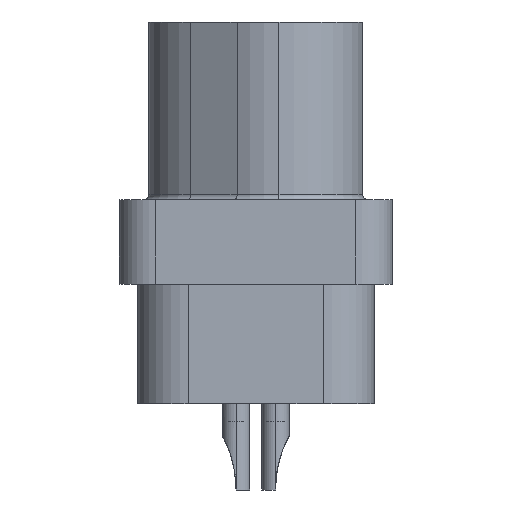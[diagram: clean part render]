
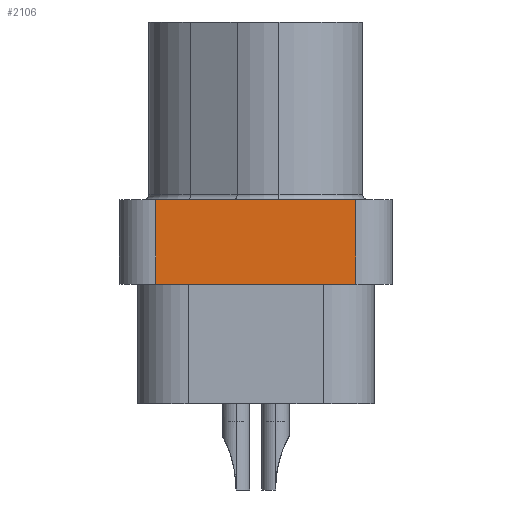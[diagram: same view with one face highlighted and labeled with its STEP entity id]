
A CAD part, left-side view. The second image highlights one B-rep face of the part: STEP entity #2106.
In plain terms, the highlighted planar face has unit normal (-1, 0, 0).
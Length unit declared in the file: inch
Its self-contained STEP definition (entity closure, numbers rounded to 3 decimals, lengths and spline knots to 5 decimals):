
#1488 = DIRECTION ( 'NONE',  ( 0., 0., -1. ) ) ;
#2106 = ADVANCED_FACE ( 'NONE', ( #10650 ), #73346, .T. ) ;
#2491 = EDGE_CURVE ( 'NONE', #49170, #23285, #16704, .T. ) ;
#4342 = VECTOR ( 'NONE', #26112, 39.37008 ) ;
#6988 = CARTESIAN_POINT ( 'NONE',  ( -0.7375, 0.11, 0.04 ) ) ;
#7127 = CARTESIAN_POINT ( 'NONE',  ( -0.7375, 0.11, -0.053 ) ) ;
#7692 = VERTEX_POINT ( 'NONE', #42355 ) ;
#8107 = ORIENTED_EDGE ( 'NONE', *, *, #30776, .T. ) ;
#9423 = ORIENTED_EDGE ( 'NONE', *, *, #14098, .F. ) ;
#10323 = ORIENTED_EDGE ( 'NONE', *, *, #2491, .F. ) ;
#10650 = FACE_OUTER_BOUND ( 'NONE', #19512, .T. ) ;
#12157 = CARTESIAN_POINT ( 'NONE',  ( -0.7375, -0.11, 0.04 ) ) ;
#14098 = EDGE_CURVE ( 'NONE', #7692, #49170, #28289, .T. ) ;
#14217 = VECTOR ( 'NONE', #21973, 39.37008 ) ;
#16704 = LINE ( 'NONE', #33427, #4342 ) ;
#19512 = EDGE_LOOP ( 'NONE', ( #10323, #9423, #8107, #48059 ) ) ;
#21973 = DIRECTION ( 'NONE',  ( 0., 0., -1. ) ) ;
#22567 = CARTESIAN_POINT ( 'NONE',  ( -0.7375, -0.11, 0.04 ) ) ;
#22744 = VERTEX_POINT ( 'NONE', #38707 ) ;
#23285 = VERTEX_POINT ( 'NONE', #7127 ) ;
#26112 = DIRECTION ( 'NONE',  ( 0., 1., 0. ) ) ;
#28289 = LINE ( 'NONE', #51830, #14217 ) ;
#30776 = EDGE_CURVE ( 'NONE', #7692, #22744, #57326, .T. ) ;
#33342 = VECTOR ( 'NONE', #35225, 39.37008 ) ;
#33427 = CARTESIAN_POINT ( 'NONE',  ( -0.7375, -0.11, -0.053 ) ) ;
#33841 = EDGE_CURVE ( 'NONE', #22744, #23285, #63009, .T. ) ;
#35225 = DIRECTION ( 'NONE',  ( 0., 1., 0. ) ) ;
#38707 = CARTESIAN_POINT ( 'NONE',  ( -0.7375, 0.11, 0.04 ) ) ;
#42355 = CARTESIAN_POINT ( 'NONE',  ( -0.7375, -0.11, 0.04 ) ) ;
#48059 = ORIENTED_EDGE ( 'NONE', *, *, #33841, .T. ) ;
#49170 = VERTEX_POINT ( 'NONE', #49759 ) ;
#49759 = CARTESIAN_POINT ( 'NONE',  ( -0.7375, -0.11, -0.053 ) ) ;
#51830 = CARTESIAN_POINT ( 'NONE',  ( -0.7375, -0.11, 0.04 ) ) ;
#52413 = DIRECTION ( 'NONE',  ( -1., 0., 0. ) ) ;
#57326 = LINE ( 'NONE', #12157, #33342 ) ;
#63009 = LINE ( 'NONE', #6988, #69352 ) ;
#68523 = DIRECTION ( 'NONE',  ( 0., 0., 1. ) ) ;
#69352 = VECTOR ( 'NONE', #1488, 39.37008 ) ;
#73346 = PLANE ( 'NONE',  #73387 ) ;
#73387 = AXIS2_PLACEMENT_3D ( 'NONE', #22567, #52413, #68523 ) ;
